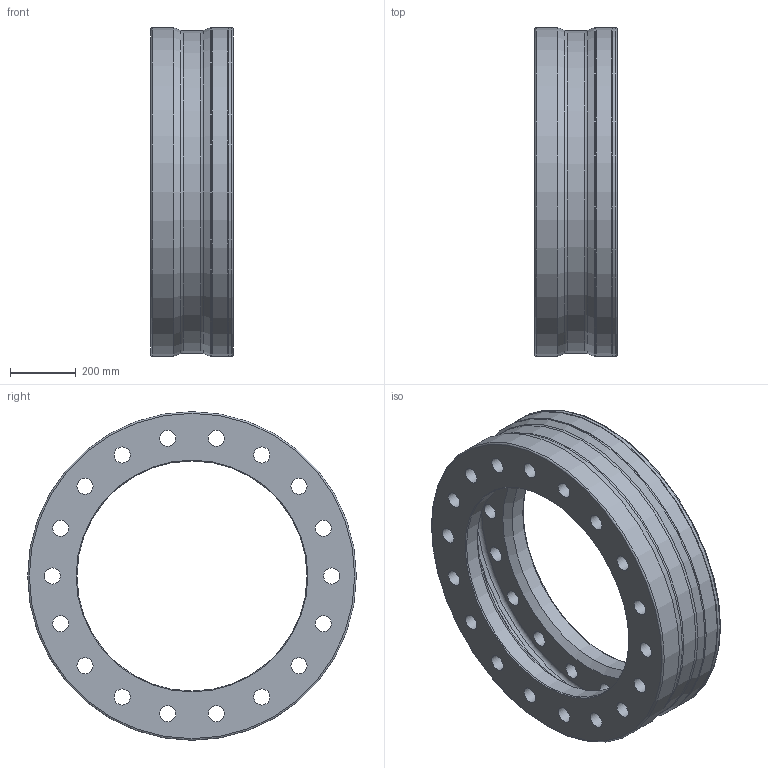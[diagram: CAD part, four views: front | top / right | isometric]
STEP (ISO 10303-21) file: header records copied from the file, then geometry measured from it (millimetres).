
FILE_DESCRIPTION(/* description */ (''),/* implementation_level */ '2;1');
FILE_NAME(/* name */ 'F:\Sensorik\Standard_Messflansche\18_600-1000_kNm\RF_600-1000kNm.stp',/* time_stamp */ '2019-12-11T08:26:59+01:00',/* author */ ('lander'),/* organization */ (''),/* preprocessor_version */ 'ST-DEVELOPER v16.5',/* originating_system */ 'Autodesk Inventor 2017',/* authorisation */ '');
FILE_SCHEMA (('AUTOMOTIVE_DESIGN { 1 0 10303 214 3 1 1 }'));
Length unit declared in the file: millimetre
Products named in the file (1): Flansch_1-teilig
Bounding box: 250 x 1000 x 1000 mm (x, y, z)
Volume: 54394979.8 mm3; surface area: 3045676.8 mm2
Topology: 1 solids, 1 shells, 66 faces, 182 edges, 120 vertices
Faces by surface type: cylinder 44, torus 10, cone 8, plane 4
Full cylindrical faces by diameter (mm): 48.964 x36, 700 x2, 965 x1, 980 x1, 998 x1, 1000 x3
Entity records: 1862 total; most frequent: DIRECTION 338, CARTESIAN_POINT 271, EDGE_LOOP 204, ORIENTED_EDGE 204, AXIS2_PLACEMENT_3D 169, FACE_BOUND 138, CIRCLE 102, VERTEX_POINT 102
